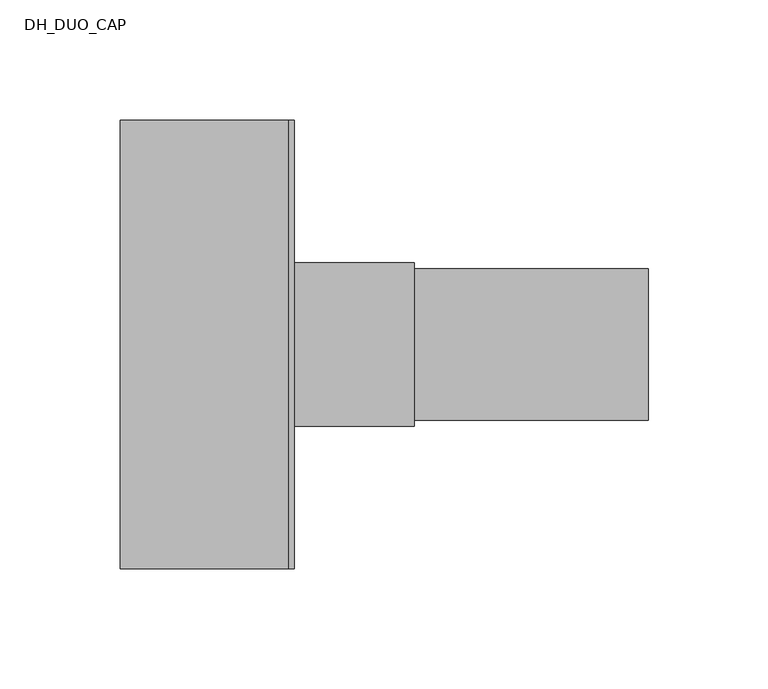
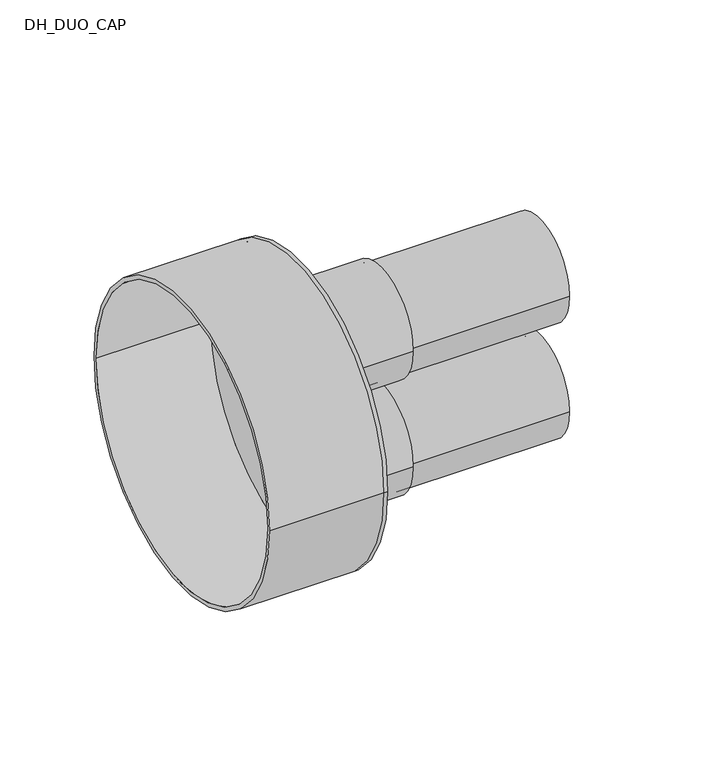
"""IFC4 building model written with IfcOpenShell, lengths in millimetres: pipe fitting geometry, DH_DUO_CAP : RAUTHERMEX DUO 11 Heating - Rubber Cap."""

from ifc_helpers import new_model, si_unit, point, frame, frame_2d, origin, place, context, project, spatial, polyline, circle_curve, trimmed, segment, composite_curve, outline, extrude, source, transform, mapped, element, save
from ifc_brep_helpers import plane_surface, cylinder_surface, revolved_surface, advanced_brep


def dh_duo_cap_7816df85(model_context):
    return source(origin(), model_context, "Body", "SolidModel", [
        extrude(outline(composite_curve([segment(trimmed(circle_curve(frame_2d((0.0, -37.5)), 31.5), [point((-31.5, -37.5))], [point((31.5, -37.5))], False, "CARTESIAN"), True, "CONTINUOUS"), segment(trimmed(circle_curve(frame_2d((0.0, -37.5)), 31.5), [point((31.5, -37.5))], [point((-31.5, -37.5))], False, "CARTESIAN"), True, "CONTINUOUS")], self_intersect=False), holes=[composite_curve([segment(trimmed(circle_curve(frame_2d((0.0, -37.5)), 25.7), [point((-25.7, -37.5))], [point((25.7, -37.5))], True, "CARTESIAN"), True, "CONTINUOUS"), segment(trimmed(circle_curve(frame_2d((0.0, -37.5)), 25.7), [point((25.7, -37.5))], [point((-25.7, -37.5))], True, "CARTESIAN"), True, "CONTINUOUS")], self_intersect=False)]), frame((0.0, 0.0, 0.0), z_axis=(1.0, 0.0, 0.0), x_axis=(0.0, 1.0, 0.0)), (0.0, 0.0, 1.0), 150.0),
        extrude(outline(composite_curve([segment(trimmed(circle_curve(frame_2d((0.0, 37.5)), 31.5), [point((-31.5, 37.5))], [point((31.5, 37.5))], False, "CARTESIAN"), True, "CONTINUOUS"), segment(trimmed(circle_curve(frame_2d((0.0, 37.5)), 31.5), [point((31.5, 37.5))], [point((-31.5, 37.5))], False, "CARTESIAN"), True, "CONTINUOUS")], self_intersect=False), holes=[composite_curve([segment(trimmed(circle_curve(frame_2d((0.0, 37.5)), 25.7), [point((-25.7, 37.5))], [point((25.7, 37.5))], True, "CARTESIAN"), True, "CONTINUOUS"), segment(trimmed(circle_curve(frame_2d((0.0, 37.5)), 25.7), [point((25.7, 37.5))], [point((-25.7, 37.5))], True, "CARTESIAN"), True, "CONTINUOUS")], self_intersect=False)]), frame((0.0, 0.0, 0.0), z_axis=(1.0, 0.0, 0.0), x_axis=(0.0, 1.0, 0.0)), (0.0, 0.0, 1.0), 150.0),
        advanced_brep(
        [(-70.0, -93.5, 0.0), (-70.0, 93.5, 0.0), (-70.0, -91.0, 0.0), (-70.0, 91.0, 0.0), (0.0, -91.0, 0.0), (0.0, 91.0, 0.0), (0.0, -93.5, 0.0), (0.0, 93.5, 0.0), (0.0, 31.5, 37.5), (0.0, -31.5, 37.5), (0.0, 31.5, -37.5), (0.0, -31.5, -37.5), (2.5, -93.5, 0.0), (2.5, 93.5, 0.0), (2.5, -31.5, 37.5), (2.5, 31.5, 37.5), (2.5, -31.5, -37.5), (2.5, 31.5, -37.5)],
        [
            (0, 1, circle_curve(frame((-70.0, 0.0, 0.0), z_axis=(-1.0, 0.0, 0.0), x_axis=(0.0, 1.0, 0.0)), 93.5)),
            (1, 0, circle_curve(frame((-70.0, 0.0, 0.0), z_axis=(-1.0, 0.0, 0.0), x_axis=(0.0, 1.0, 0.0)), 93.5)),
            (2, 3, circle_curve(frame((-70.0, 0.0, 0.0), z_axis=(1.0, 0.0, 0.0), x_axis=(0.0, 1.0, 0.0)), 91.0)),
            (3, 2, circle_curve(frame((-70.0, 0.0, 0.0), z_axis=(1.0, 0.0, 0.0), x_axis=(0.0, 1.0, 0.0)), 91.0)),
            (2, 4),
            (4, 5, circle_curve(frame((0.0, 0.0, 0.0), z_axis=(1.0, 0.0, 0.0), x_axis=(0.0, 1.0, 0.0)), 91.0)),
            (5, 3),
            (5, 4, circle_curve(frame((0.0, 0.0, 0.0), z_axis=(1.0, 0.0, 0.0), x_axis=(0.0, 1.0, 0.0)), 91.0)),
            (0, 6),
            (6, 7, circle_curve(frame((0.0, 0.0, 0.0), z_axis=(-1.0, 0.0, 0.0), x_axis=(0.0, 1.0, 0.0)), 93.5)),
            (7, 1),
            (7, 6, circle_curve(frame((0.0, 0.0, 0.0), z_axis=(-1.0, 0.0, 0.0), x_axis=(0.0, 1.0, 0.0)), 93.5)),
            (8, 9, circle_curve(frame((0.0, 0.0, 37.5), z_axis=(1.0, 0.0, 0.0), x_axis=(0.0, 1.0, 0.0)), 31.5)),
            (9, 8, circle_curve(frame((0.0, 0.0, 37.5), z_axis=(1.0, 0.0, 0.0), x_axis=(0.0, 1.0, 0.0)), 31.5)),
            (10, 11, circle_curve(frame((0.0, 0.0, -37.5), z_axis=(1.0, 0.0, 0.0), x_axis=(0.0, 1.0, 0.0)), 31.5)),
            (11, 10, circle_curve(frame((0.0, 0.0, -37.5), z_axis=(1.0, 0.0, 0.0), x_axis=(0.0, 1.0, 0.0)), 31.5)),
            (12, 13, circle_curve(frame((2.5, 0.0, 0.0), z_axis=(1.0, 0.0, 0.0), x_axis=(0.0, 1.0, 0.0)), 93.5)),
            (13, 12, circle_curve(frame((2.5, 0.0, 0.0), z_axis=(1.0, 0.0, 0.0), x_axis=(0.0, 1.0, 0.0)), 93.5)),
            (14, 15, circle_curve(frame((2.5, 0.0, 37.5), z_axis=(-1.0, 0.0, 0.0), x_axis=(0.0, 1.0, 0.0)), 31.5)),
            (15, 14, circle_curve(frame((2.5, 0.0, 37.5), z_axis=(-1.0, 0.0, 0.0), x_axis=(0.0, 1.0, 0.0)), 31.5)),
            (16, 17, circle_curve(frame((2.5, 0.0, -37.5), z_axis=(-1.0, 0.0, 0.0), x_axis=(0.0, 1.0, 0.0)), 31.5)),
            (17, 16, circle_curve(frame((2.5, 0.0, -37.5), z_axis=(-1.0, 0.0, 0.0), x_axis=(0.0, 1.0, 0.0)), 31.5)),
            (13, 7),
            (6, 12),
            (8, 15),
            (14, 9),
            (10, 17),
            (16, 11),
        ],
        [
            plane_surface(frame((-70.0, 0.0, 0.0), z_axis=(-1.0, 0.0, 0.0), x_axis=(0.0, 0.0, 1.0))),
            revolved_surface(polyline([(0.0, 91.0, 0.0), (-70.0, 91.0, 0.0)]), (-70.0, 0.0, 0.0), (1.0, 0.0, 0.0)),
            cylinder_surface(frame((-70.0, 0.0, 0.0), z_axis=(-1.0, 0.0, 0.0), x_axis=(0.0, 1.0, 0.0)), 93.5),
            plane_surface(frame((0.0, 0.0, 0.0), z_axis=(-1.0, 0.0, 0.0), x_axis=(0.0, 0.0, 1.0))),
            plane_surface(frame((2.5, 0.0, 0.0), z_axis=(1.0, 0.0, 0.0), x_axis=(0.0, 0.0, 1.0))),
            cylinder_surface(frame((0.0, 0.0, 0.0), z_axis=(-1.0, 0.0, 0.0), x_axis=(0.0, 1.0, 0.0)), 93.5),
            revolved_surface(polyline([(0.0, 31.5, 37.5), (2.5, 31.5, 37.5)]), (0.0, 0.0, 37.5), (-1.0, 0.0, 0.0)),
            revolved_surface(polyline([(0.0, 31.5, -37.5), (2.5, 31.5, -37.5)]), (0.0, 0.0, -37.5), (-1.0, 0.0, 0.0)),
        ],
        [
            (0, [[1, 2], [3, 4]]),
            (1, [[-3, 5, 6, 7]]),
            (1, [[-4, -7, 8, -5]]),
            (2, [[-1, 9, 10, 11]]),
            (2, [[-2, -11, 12, -9]]),
            (3, [[-6, -8], [13, 14], [15, 16]]),
            (4, [[17, 18], [19, 20], [21, 22]]),
            (5, [[-18, 23, -10, 24]]),
            (5, [[-17, -24, -12, -23]]),
            (6, [[25, -19, 26, -13]]),
            (6, [[-25, -14, -26, -20]]),
            (7, [[27, -21, 28, -15]]),
            (7, [[-27, -16, -28, -22]]),
        ],
    ),
        extrude(outline(composite_curve([segment(trimmed(circle_curve(frame_2d((0.0, -37.5)), 34.0), [point((-34.0, -37.5))], [point((34.0, -37.5))], False, "CARTESIAN"), True, "CONTINUOUS"), segment(trimmed(circle_curve(frame_2d((0.0, -37.5)), 34.0), [point((34.0, -37.5))], [point((-34.0, -37.5))], False, "CARTESIAN"), True, "CONTINUOUS")], self_intersect=False), holes=[composite_curve([segment(trimmed(circle_curve(frame_2d((0.0, -37.5)), 31.5), [point((-31.5, -37.5))], [point((31.5, -37.5))], True, "CARTESIAN"), True, "CONTINUOUS"), segment(trimmed(circle_curve(frame_2d((0.0, -37.5)), 31.5), [point((31.5, -37.5))], [point((-31.5, -37.5))], True, "CARTESIAN"), True, "CONTINUOUS")], self_intersect=False)]), frame((2.5, 0.0, 0.0), z_axis=(1.0, 0.0, 0.0), x_axis=(0.0, 1.0, 0.0)), (0.0, 0.0, 1.0), 50.0),
        extrude(outline(composite_curve([segment(trimmed(circle_curve(frame_2d((0.0, 37.5)), 34.0), [point((-34.0, 37.5))], [point((34.0, 37.5))], False, "CARTESIAN"), True, "CONTINUOUS"), segment(trimmed(circle_curve(frame_2d((0.0, 37.5)), 34.0), [point((34.0, 37.5))], [point((-34.0, 37.5))], False, "CARTESIAN"), True, "CONTINUOUS")], self_intersect=False), holes=[composite_curve([segment(trimmed(circle_curve(frame_2d((0.0, 37.5)), 31.5), [point((-31.5, 37.5))], [point((31.5, 37.5))], True, "CARTESIAN"), True, "CONTINUOUS"), segment(trimmed(circle_curve(frame_2d((0.0, 37.5)), 31.5), [point((31.5, 37.5))], [point((-31.5, 37.5))], True, "CARTESIAN"), True, "CONTINUOUS")], self_intersect=False)]), frame((2.5, 0.0, 0.0), z_axis=(1.0, 0.0, 0.0), x_axis=(0.0, 1.0, 0.0)), (0.0, 0.0, 1.0), 50.0),
    ])


if __name__ == "__main__":
    model = new_model("IFC4")
    model_context = context("Model", 3, world=origin())
    ifc_project = project(units=[si_unit("LENGTHUNIT", "METRE", prefix="MILLI")], contexts=[model_context])
    site = spatial("IfcSite", under=ifc_project)
    building = spatial("IfcBuilding", under=site)
    placement = place(None, origin())
    dh_duo_cap_shape = dh_duo_cap_7816df85(model_context)
    element("IfcPipeFitting", 1, ObjectType="DH_DUO_CAP : RAUTHERMEX DUO 11 Heating - Rubber Cap", at=placement, inside=building, context=model_context, shape_type="MappedRepresentation", body=[
        mapped(dh_duo_cap_shape, transform((0.0, 0.0, 0.0), x_axis=(1.0, 0.0, 0.0), y_axis=(0.0, 1.0, 0.0), z_axis=(0.0, 0.0, 1.0))),
    ])
    save(model, "model.ifc")
